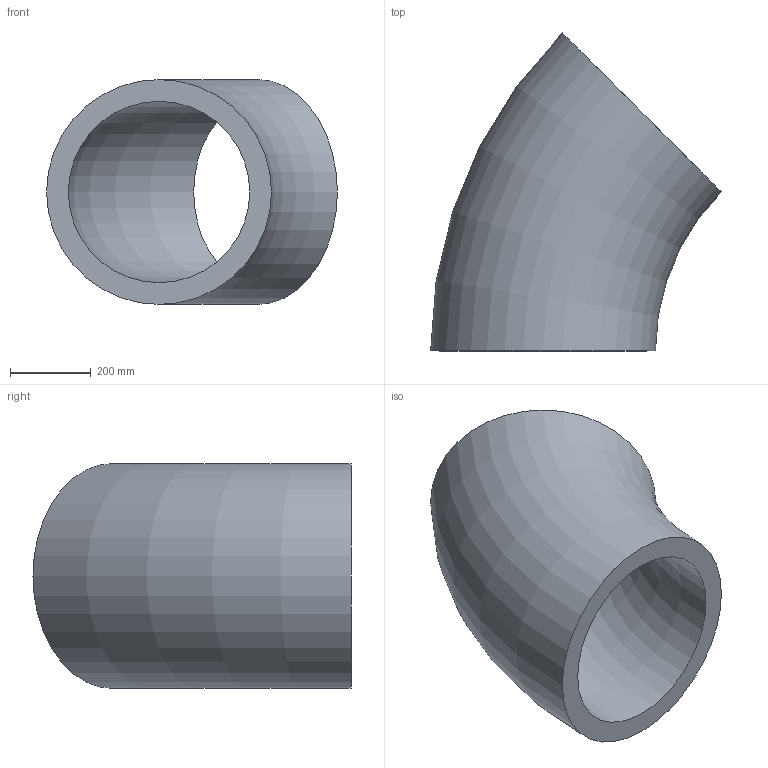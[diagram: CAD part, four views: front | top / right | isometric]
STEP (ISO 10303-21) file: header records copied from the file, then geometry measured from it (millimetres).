
FILE_DESCRIPTION(/* description */ (''),/* implementation_level */ '2;1');
FILE_NAME(/* name */ 'C:\Users\D\Documents\Inventor\HP\JIS\配管\エルボ ロング 45°\Sch160\Elbow45-long-550A-Sch160.stp',/* time_stamp */ '2022-06-08T17:05:57+09:00',/* author */ ('D'),/* organization */ (''),/* preprocessor_version */ 'ST-DEVELOPER v18',/* originating_system */ 'Autodesk Inventor 2020',/* authorisation */ '');
FILE_SCHEMA (('AUTOMOTIVE_DESIGN { 1 0 10303 214 3 1 1 }'));
Length unit declared in the file: millimetre
Products named in the file (1): Elbow-long-90-15A-SGP
Bounding box: 722.47 x 790.26 x 558.8 mm (x, y, z)
Volume: 56376812.4 mm3; surface area: 2259304.7 mm2
Topology: 1 solids, 1 shells, 4 faces, 10 edges, 8 vertices
Faces by surface type: torus 2, plane 2
Entity records: 181 total; most frequent: DIRECTION 30, CARTESIAN_POINT 23, ORIENTED_EDGE 20, AXIS2_PLACEMENT_3D 15, CIRCLE 10, EDGE_CURVE 10, VERTEX_POINT 8, EDGE_LOOP 6
